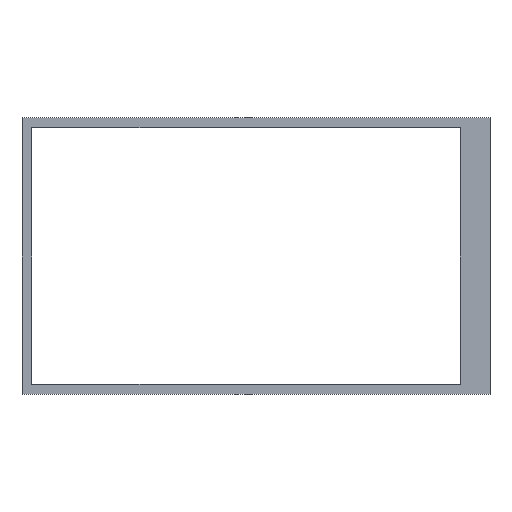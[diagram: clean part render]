
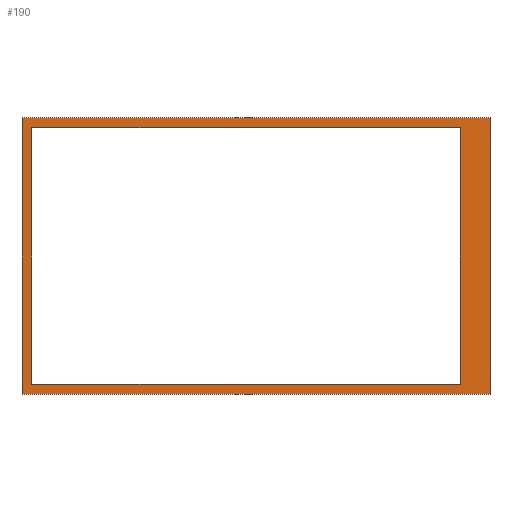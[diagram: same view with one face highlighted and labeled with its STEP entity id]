
A CAD part, top view. The second image highlights one B-rep face of the part: STEP entity #190.
In plain terms, the highlighted planar face has unit normal (0, 0, 1).
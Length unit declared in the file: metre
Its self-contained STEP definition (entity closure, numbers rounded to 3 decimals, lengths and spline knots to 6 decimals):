
#44=ORIENTED_EDGE('',*,*,#72,.F.);
#45=ORIENTED_EDGE('',*,*,#76,.T.);
#46=ORIENTED_EDGE('',*,*,#79,.T.);
#47=ORIENTED_EDGE('',*,*,#81,.F.);
#48=ORIENTED_EDGE('',*,*,#62,.F.);
#49=ORIENTED_EDGE('',*,*,#66,.T.);
#50=ORIENTED_EDGE('',*,*,#69,.T.);
#51=ORIENTED_EDGE('',*,*,#83,.F.);
#62=EDGE_CURVE('',#86,#87,#102,.T.);
#66=EDGE_CURVE('',#86,#89,#106,.T.);
#69=EDGE_CURVE('',#89,#91,#109,.T.);
#72=EDGE_CURVE('',#94,#95,#112,.T.);
#76=EDGE_CURVE('',#94,#97,#116,.T.);
#79=EDGE_CURVE('',#97,#99,#119,.T.);
#81=EDGE_CURVE('',#95,#99,#121,.T.);
#83=EDGE_CURVE('',#87,#91,#123,.T.);
#86=VERTEX_POINT('',#267);
#87=VERTEX_POINT('',#269);
#89=VERTEX_POINT('',#275);
#91=VERTEX_POINT('',#281);
#94=VERTEX_POINT('',#288);
#95=VERTEX_POINT('',#290);
#97=VERTEX_POINT('',#296);
#99=VERTEX_POINT('',#302);
#102=LINE('',#268,#126);
#106=LINE('',#276,#130);
#109=LINE('',#282,#133);
#112=LINE('',#289,#136);
#116=LINE('',#297,#140);
#119=LINE('',#303,#143);
#121=LINE('',#306,#145);
#123=LINE('',#309,#147);
#126=VECTOR('',#221,1.);
#130=VECTOR('',#227,1.);
#133=VECTOR('',#232,1.);
#136=VECTOR('',#237,1.);
#140=VECTOR('',#243,1.);
#143=VECTOR('',#248,1.);
#145=VECTOR('',#252,1.);
#147=VECTOR('',#256,1.);
#156=EDGE_LOOP('',(#44,#45,#46,#47));
#157=EDGE_LOOP('',(#48,#49,#50,#51));
#168=FACE_BOUND('',#156,.T.);
#169=FACE_BOUND('',#157,.T.);
#180=PLANE('',#213);
#190=ADVANCED_FACE('',(#168,#169),#180,.T.);
#213=AXIS2_PLACEMENT_3D('',#310,#257,#258);
#221=DIRECTION('',(0.,1.,0.));
#227=DIRECTION('',(-1.,0.,0.));
#232=DIRECTION('',(0.,1.,0.));
#237=DIRECTION('',(-1.,0.,0.));
#243=DIRECTION('',(0.,1.,0.));
#248=DIRECTION('',(-1.,0.,0.));
#252=DIRECTION('',(0.,1.,0.));
#256=DIRECTION('',(-1.,0.,0.));
#257=DIRECTION('',(0.,0.,1.));
#258=DIRECTION('',(1.,0.,0.));
#267=CARTESIAN_POINT('',(0.032825,0.070549,0.0046));
#268=CARTESIAN_POINT('',(0.032825,0.096374,0.0046));
#269=CARTESIAN_POINT('',(0.032825,0.122199,0.0046));
#275=CARTESIAN_POINT('',(-0.053275,0.070549,0.0046));
#276=CARTESIAN_POINT('',(-0.010225,0.070549,0.0046));
#281=CARTESIAN_POINT('',(-0.053275,0.122199,0.0046));
#282=CARTESIAN_POINT('',(-0.053275,0.096374,0.0046));
#288=CARTESIAN_POINT('',(0.038825,0.068549,0.0046));
#289=CARTESIAN_POINT('',(-0.010225,0.068549,0.0046));
#290=CARTESIAN_POINT('',(-0.055275,0.068549,0.0046));
#296=CARTESIAN_POINT('',(0.038825,0.124199,0.0046));
#297=CARTESIAN_POINT('',(0.038825,0.096374,0.0046));
#302=CARTESIAN_POINT('',(-0.055275,0.124199,0.0046));
#303=CARTESIAN_POINT('',(-0.010225,0.124199,0.0046));
#306=CARTESIAN_POINT('',(-0.055275,0.096374,0.0046));
#309=CARTESIAN_POINT('',(-0.010225,0.122199,0.0046));
#310=CARTESIAN_POINT('',(-0.008225,0.096374,0.0046));
